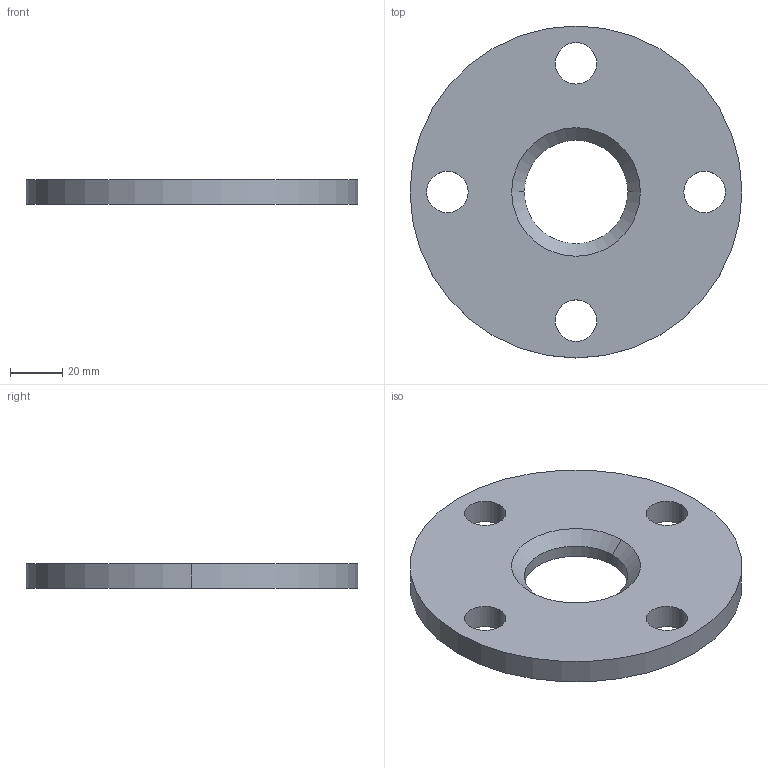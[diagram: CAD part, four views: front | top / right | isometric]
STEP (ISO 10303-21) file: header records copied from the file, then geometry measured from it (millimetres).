
FILE_DESCRIPTION (( 'STEP AP214' ), '1' );
FILE_NAME ('E38SL 1.5 REV6.STEP', '2025-07-02T19:10:54', ( '' ), ( '' ), 'SwSTEP 2.0', 'SolidWorks 2022', '' );
FILE_SCHEMA (( 'AUTOMOTIVE_DESIGN' ));
Length unit declared in the file: inch
Products named in the file (1): E38SL 1.5 REV6
Bounding box: 127 x 127 x 9.53 mm (x, y, z)
Volume: 99839.7 mm3; surface area: 27853.3 mm2
Topology: 1 solids, 1 shells, 16 faces, 40 edges, 26 vertices
Faces by surface type: cylinder 12, cone 2, plane 2
Entity records: 593 total; most frequent: DIRECTION 100, CARTESIAN_POINT 83, ORIENTED_EDGE 80, AXIS2_PLACEMENT_3D 43, EDGE_CURVE 40, CIRCLE 26, VERTEX_POINT 26, EDGE_LOOP 26
